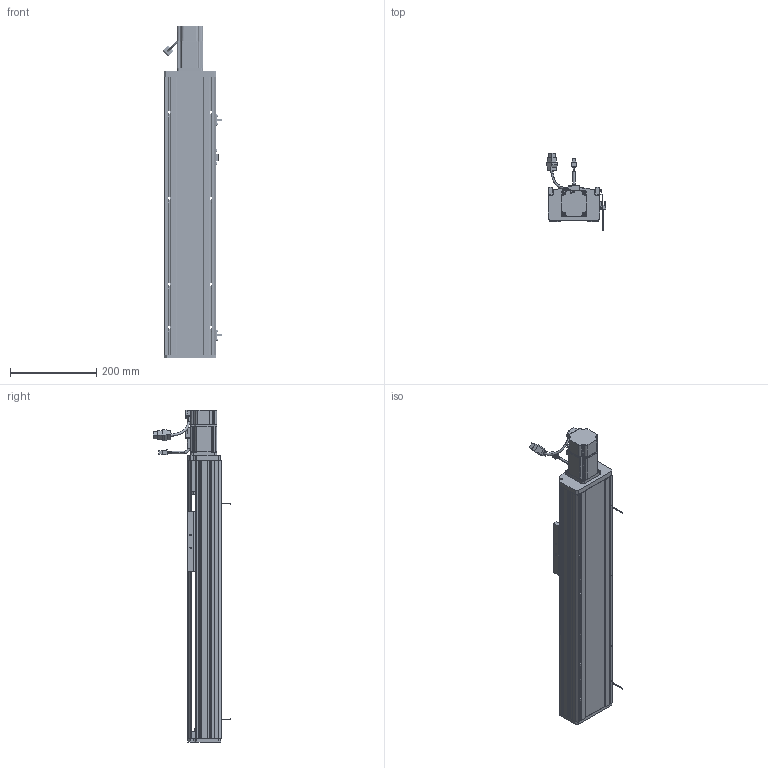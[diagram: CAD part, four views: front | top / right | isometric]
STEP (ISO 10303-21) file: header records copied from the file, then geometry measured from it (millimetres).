
FILE_DESCRIPTION (( 'STEP AP214' ), '1' );
FILE_NAME ('CTH120-400.STEP', '2019-11-20T02:39:41', ( '微软用户' ), ( '微软中国' ), 'SwSTEP 2.0', 'SolidWorks 2017', '' );
FILE_SCHEMA (( 'AUTOMOTIVE_DESIGN' ));
Length unit declared in the file: millimetre
Products named in the file (33): 粣創揤啣; M3-L8囀鞠褒蹟佪; COL12B-粣遠; CT12耀郪-覜茼んえ; 坶踡蹟譫; EE-SX672-BR; 120耀郪-粣創釱; M4-L6半圆头内六角螺丝; 120耀郪-傷啣; M5-L20囀鞠褒蹟佪; 120模组-盖子_默认<按加工>; M5-L12囀鞠褒蹟佪; 120耀郪-侜督儂啣; 怢湛200W侜督萇儂ECMA-CX0602ES; SFH1605; 盓傅釱蚾饜极; 136蹟簽蟀諉輸; 6000; 120模组-移动座_默认<按加工>; 120耀郪-盓傅釱; SFH1605-450; M4-L16囀鞠褒蹟佪; 120模组-底座_默认<按加工>; EGH15-CA; EGH15_RAIL; CTH120-400; 珨极宒粣創釱; 遣喳蝶15x12x8; M4-L10囀鞠褒蹟佪; M4-L22囀鞠褒蹟佪; 7001-DB; 7001; 噩砃EGH15-CA
Assembly tree (90 placements, depth 4):
  CTH120-400
    120模组-底座_默认<按加工>
    SFH1605-450
    120模组-移动座_默认<按加工>
    136蹟簽蟀諉輸
    SFH1605
    120耀郪-侜督儂啣
    120模组-盖子_默认<按加工>
    120耀郪-傷啣
    珨极宒粣創釱
      120耀郪-粣創釱
      坶踡蹟譫
      COL12B-粣遠  x2
      粣創揤啣
      7001-DB
        7001  x2
      M4-L22囀鞠褒蹟佪  x6
      M4-L10囀鞠褒蹟佪  x4
      遣喳蝶15x12x8
    EGH15_RAIL  x2
    EGH15-CA  x2
    M4-L16囀鞠褒蹟佪  x8
    M4-L10囀鞠褒蹟佪  x22
    盓傅釱蚾饜极
      120耀郪-盓傅釱
      6000
      遣喳蝶15x12x8  x2
      M4-L22囀鞠褒蹟佪  x2
    怢湛200W侜督萇儂ECMA-CX0602ES
    M5-L12囀鞠褒蹟佪  x3
    M5-L20囀鞠褒蹟佪  x4
    M4-L6半圆头内六角螺丝  x4
    EE-SX672-BR  x2
    CT12耀郪-覜茼んえ
    M3-L8囀鞠褒蹟佪  x4
    噩砃EGH15-CA  x2
Bounding box: 137.94 x 179.67 x 772 mm (x, y, z)
Volume: 3154103.4 mm3; surface area: 947913.3 mm2
Topology: 87 solids, 96 shells, 5150 faces, 13539 edges, 8653 vertices
Faces by surface type: plane 2809, cylinder 1478, cone 529, bspline 241, torus 81, sphere 12
Entity records: 107878 total; most frequent: CARTESIAN_POINT 31603, ORIENTED_EDGE 15996, DIRECTION 14541, EDGE_CURVE 7998, VERTEX_POINT 5247, AXIS2_PLACEMENT_3D 4930, VECTOR 4681, LINE 4681
